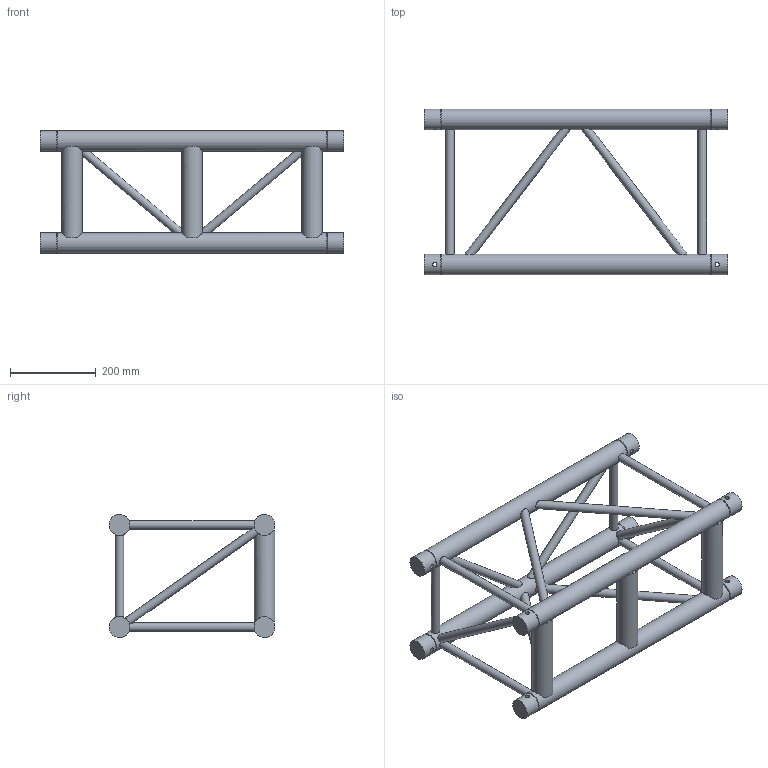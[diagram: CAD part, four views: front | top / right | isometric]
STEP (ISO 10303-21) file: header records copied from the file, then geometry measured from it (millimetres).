
FILE_DESCRIPTION(/* description */ (''),/* implementation_level */ '2;1');
FILE_NAME(/* name */ 'C:\Users\adrian.toca\Desktop\111050501.stp',/* time_stamp */ '2016-09-16T09:52:59+03:00',/* author */ ('adrian.toca'),/* organization */ (''),/* preprocessor_version */ 'ST-DEVELOPER v15.6',/* originating_system */ 'Autodesk Inventor 2015',/* authorisation */ '');
FILE_SCHEMA (('AUTOMOTIVE_DESIGN { 1 0 10303 214 3 1 1 }'));
Length unit declared in the file: millimetre
Products named in the file (1): 260030724
Bounding box: 710 x 387.3 x 287.3 mm (x, y, z)
Volume: 7620150.4 mm3; surface area: 821459.3 mm2
Topology: 9 solids, 9 shells, 115 faces, 273 edges, 174 vertices
Faces by surface type: plane 60, cylinder 47, cone 8
Full cylindrical faces by diameter (mm): 10 x8, 20 x14, 48.3 x15
Entity records: 4020 total; most frequent: CARTESIAN_POINT 1544, DIRECTION 462, ORIENTED_EDGE 412, AXIS2_PLACEMENT_3D 214, EDGE_LOOP 206, EDGE_CURVE 192, VERTEX_POINT 152, STYLED_ITEM 106
